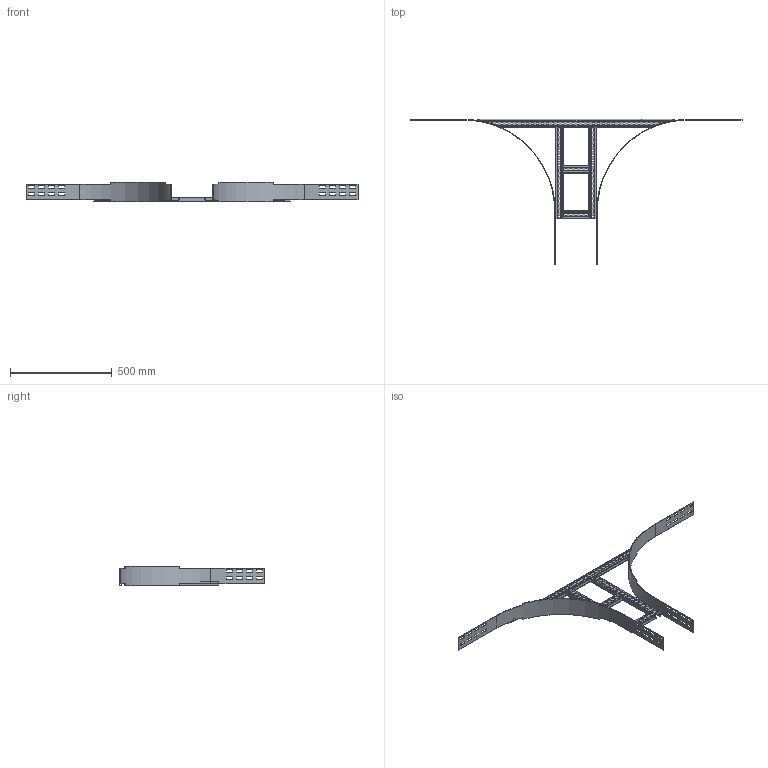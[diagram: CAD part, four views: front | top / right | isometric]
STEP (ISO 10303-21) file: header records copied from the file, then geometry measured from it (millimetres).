
FILE_DESCRIPTION(('Creo Elements/Direct Modeling STEP Export'),'2;1');
FILE_NAME('WPBP10-20-45.stp','2016-06-03T11:53:25',(''),(''),'PTC Creo Elements/Direct Modeling STEP processor for AP214 (Solid Model)','PTC Creo Elements/Direct Modeling 19.0C 15-Aug-2015 (C) Parametric Technology GmbH','');
FILE_SCHEMA(('AUTOMOTIVE_DESIGN { 1 0 10303 214 1 1 1 1 }'));
Length unit declared in the file: millimetre
Products named in the file (5): WPAASP1_20; WPAASP2; WPAAIG_100-450; WPKS20; WPBP10-20-45
Assembly tree (7 placements, depth 2):
  WPBP10-20-45
    WPKS20  x2
    WPAAIG_100-450  x2
    WPAASP2  x2
    WPAASP1_20
Bounding box: 1635 x 715 x 95 mm (x, y, z)
Volume: 866275.7 mm3; surface area: 809222.8 mm2
Topology: 7 solids, 7 shells, 701 faces, 2061 edges, 1374 vertices
Faces by surface type: plane 441, cylinder 260
Entity records: 15242 total; most frequent: ORIENTED_EDGE 2634, CARTESIAN_POINT 2620, DIRECTION 2545, EDGE_CURVE 1317, VECTOR 939, LINE 939, VERTEX_POINT 878, AXIS2_PLACEMENT_3D 803
